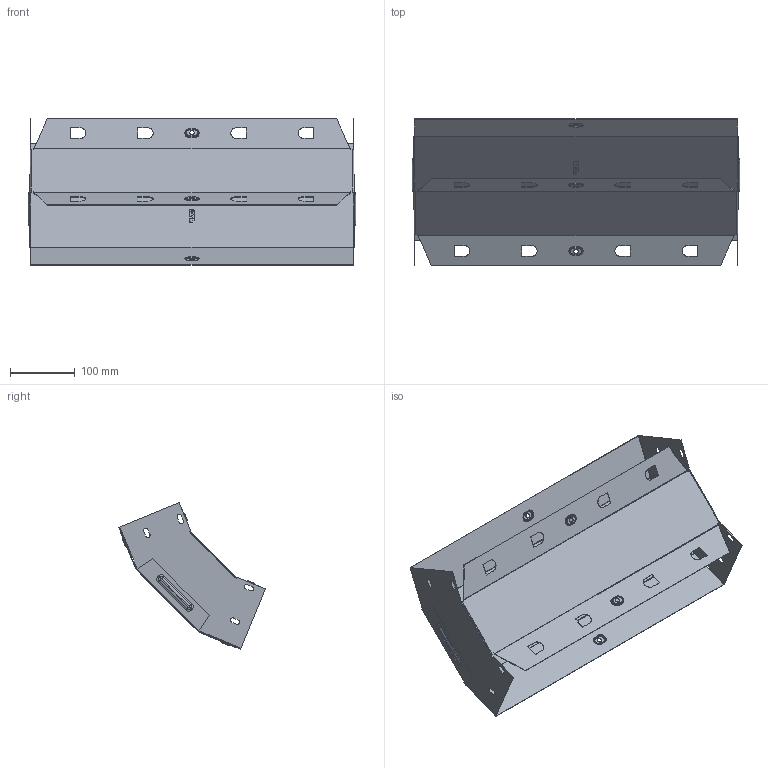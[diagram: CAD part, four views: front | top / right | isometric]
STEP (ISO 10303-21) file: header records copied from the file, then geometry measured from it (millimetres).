
FILE_DESCRIPTION (( 'STEP AP214' ), '1' );
FILE_NAME ('vo45100500_捘.STEP', '2019-06-10T08:16:55', ( '砐錪賧瘔蠈錪 Windows' ), ( '' ), 'SwSTEP 2.0', 'SolidWorks 2018', '' );
FILE_SCHEMA (( 'AUTOMOTIVE_DESIGN' ));
Length unit declared in the file: millimetre
Products named in the file (1): vo45100500_捘
Bounding box: 505.6 x 226.34 x 226.34 mm (x, y, z)
Volume: 226169.3 mm3; surface area: 569379 mm2
Topology: 2 solids, 2 shells, 404 faces, 1014 edges, 636 vertices
Faces by surface type: plane 197, cylinder 126, torus 64, bspline 17
Entity records: 12726 total; most frequent: CARTESIAN_POINT 2819, DIRECTION 2072, ORIENTED_EDGE 2028, EDGE_CURVE 1014, AXIS2_PLACEMENT_3D 720, VERTEX_POINT 636, LINE 632, VECTOR 632
